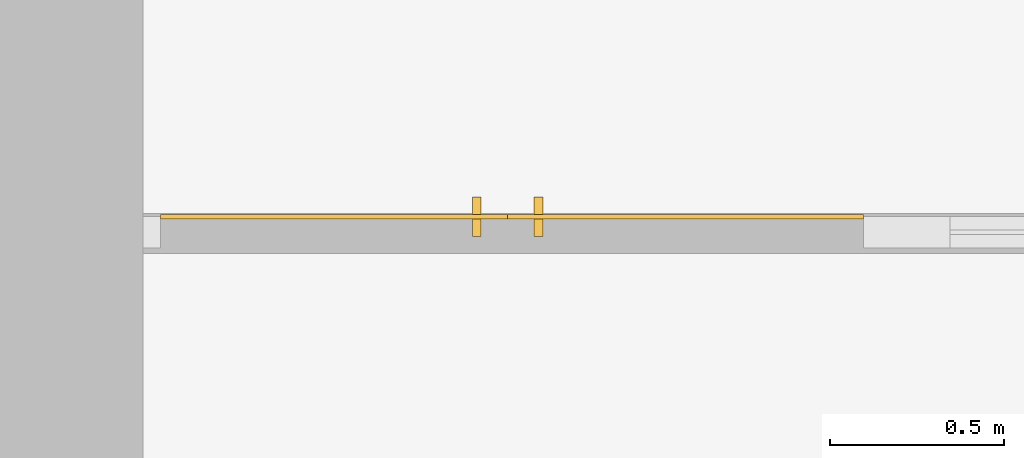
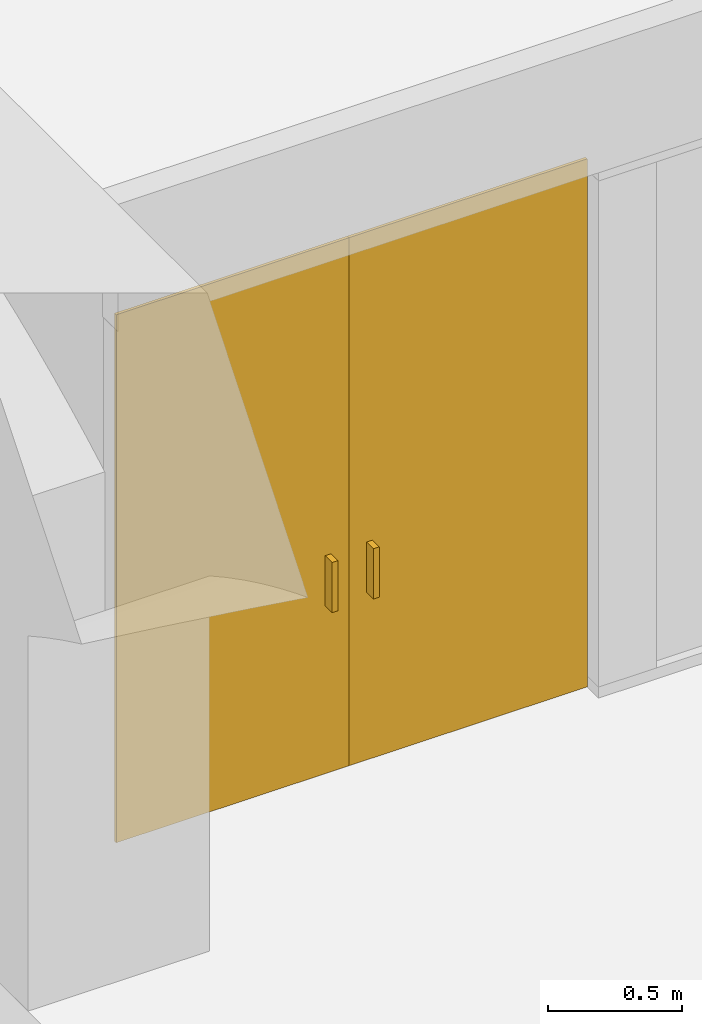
# One storey, part 84 of 88: 2 doors, 1 element without a shape of its own.
"""IFC2X3 building model written with IfcOpenShell, lengths in millimetres."""

from ifc_helpers import new_model, entity, si_unit, converted_unit, derived_unit, direction, frame, frame_2d, origin, place, context, subcontext, project, spatial, rectangle, extrude, source, transform, mapped, material, material_list, type_object, type_shapes, element, aggregate, save


model = new_model("IFC2X3")

# Units and contexts
model_context = context("Model", 3, precision=0.01, world=origin(), true_north=direction((6.123031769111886e-17, 1.0)))
body_context = subcontext(model_context, "Body", "Model", "MODEL_VIEW")
ifc_project = project(units=[si_unit("LENGTHUNIT", "METRE", prefix="MILLI"), si_unit("AREAUNIT", "SQUARE_METRE"), si_unit("VOLUMEUNIT", "CUBIC_METRE"), converted_unit("PLANEANGLEUNIT", "DEGREE", entity("IfcPlaneAngleMeasure", 0.017453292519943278), si_unit("PLANEANGLEUNIT", "RADIAN"), dimensions=[0, 0, 0, 0, 0, 0, 0]), si_unit("MASSUNIT", "GRAM", prefix="KILO"), derived_unit("MASSDENSITYUNIT", [(si_unit("MASSUNIT", "GRAM", prefix="KILO"), 1), (si_unit("LENGTHUNIT", "METRE"), -3)]), derived_unit("IONCONCENTRATIONUNIT", [(si_unit("MASSUNIT", "GRAM", prefix="KILO"), 1), (si_unit("LENGTHUNIT", "METRE"), -3)]), derived_unit("MOMENTOFINERTIAUNIT", [(si_unit("LENGTHUNIT", "METRE"), 4)]), si_unit("TIMEUNIT", "SECOND"), si_unit("FREQUENCYUNIT", "HERTZ"), si_unit("THERMODYNAMICTEMPERATUREUNIT", "DEGREE_CELSIUS"), derived_unit("THERMALTRANSMITTANCEUNIT", [(si_unit("MASSUNIT", "GRAM", prefix="KILO"), 1), (si_unit("THERMODYNAMICTEMPERATUREUNIT", "KELVIN"), -1), (si_unit("TIMEUNIT", "SECOND"), -3)]), derived_unit("THERMALCONDUCTANCEUNIT", [(si_unit("MASSUNIT", "GRAM", prefix="KILO"), 1), (si_unit("THERMODYNAMICTEMPERATUREUNIT", "KELVIN"), -1), (si_unit("TIMEUNIT", "SECOND"), -3), (si_unit("LENGTHUNIT", "METRE"), 1)]), derived_unit("VOLUMETRICFLOWRATEUNIT", [(si_unit("LENGTHUNIT", "METRE", prefix="DECI"), 3), (si_unit("TIMEUNIT", "SECOND"), -1)]), derived_unit("MASSFLOWRATEUNIT", [(si_unit("MASSUNIT", "GRAM", prefix="KILO"), 1), (si_unit("TIMEUNIT", "SECOND"), -1)]), derived_unit("ROTATIONALFREQUENCYUNIT", [(si_unit("TIMEUNIT", "SECOND"), -1)]), si_unit("ELECTRICCURRENTUNIT", "AMPERE"), si_unit("ELECTRICVOLTAGEUNIT", "VOLT"), si_unit("POWERUNIT", "WATT"), si_unit("FORCEUNIT", "NEWTON", prefix="KILO"), si_unit("ILLUMINANCEUNIT", "LUX"), si_unit("LUMINOUSFLUXUNIT", "LUMEN"), si_unit("LUMINOUSINTENSITYUNIT", "CANDELA"), si_unit("ENERGYUNIT", "JOULE"), derived_unit("USERDEFINED", [(si_unit("MASSUNIT", "GRAM", prefix="KILO"), -1), (si_unit("LENGTHUNIT", "METRE"), -2), (si_unit("TIMEUNIT", "SECOND"), 3), (si_unit("LUMINOUSFLUXUNIT", "LUMEN"), 1)]), derived_unit("USERDEFINED", [(si_unit("MASSUNIT", "GRAM", prefix="KILO"), 1), (si_unit("TIMEUNIT", "SECOND"), -3), (si_unit("LENGTHUNIT", "METRE"), 3), (si_unit("ELECTRICCURRENTUNIT", "AMPERE"), -2)]), derived_unit("SOUNDPOWERUNIT", [(si_unit("MASSUNIT", "GRAM", prefix="KILO"), 1), (si_unit("TIMEUNIT", "SECOND"), -3), (si_unit("LENGTHUNIT", "METRE"), 2)]), derived_unit("SOUNDPRESSUREUNIT", [(si_unit("MASSUNIT", "GRAM", prefix="KILO"), 1), (si_unit("LENGTHUNIT", "METRE"), -1), (si_unit("TIMEUNIT", "SECOND"), -2)]), derived_unit("LINEARVELOCITYUNIT", [(si_unit("LENGTHUNIT", "METRE"), 1), (si_unit("TIMEUNIT", "SECOND"), -1)]), si_unit("PRESSUREUNIT", "PASCAL"), derived_unit("USERDEFINED", [(si_unit("MASSUNIT", "GRAM", prefix="KILO"), 1), (si_unit("LENGTHUNIT", "METRE"), -2), (si_unit("TIMEUNIT", "SECOND"), -2)]), derived_unit("LINEARFORCEUNIT", [(si_unit("MASSUNIT", "GRAM", prefix="KILO"), 1), (si_unit("TIMEUNIT", "SECOND"), -2)]), derived_unit("PLANARFORCEUNIT", [(si_unit("MASSUNIT", "GRAM", prefix="KILO"), 1), (si_unit("LENGTHUNIT", "METRE"), -1), (si_unit("TIMEUNIT", "SECOND"), -2)]), derived_unit("SPECIFICHEATCAPACITYUNIT", [(si_unit("THERMODYNAMICTEMPERATUREUNIT", "KELVIN"), -1), (si_unit("LENGTHUNIT", "METRE"), 2), (si_unit("TIMEUNIT", "SECOND"), -2)]), derived_unit("HEATFLUXDENSITYUNIT", [(si_unit("MASSUNIT", "GRAM", prefix="KILO"), 1), (si_unit("TIMEUNIT", "SECOND"), -3)]), derived_unit("HEATINGVALUEUNIT", [(si_unit("LENGTHUNIT", "METRE"), 2), (si_unit("TIMEUNIT", "SECOND"), -2)]), derived_unit("VAPORPERMEABILITYUNIT", [(si_unit("LENGTHUNIT", "METRE"), -1), (si_unit("TIMEUNIT", "SECOND"), 1)]), derived_unit("DYNAMICVISCOSITYUNIT", [(si_unit("MASSUNIT", "GRAM", prefix="KILO"), 1), (si_unit("TIMEUNIT", "SECOND"), -1), (si_unit("LENGTHUNIT", "METRE"), -1)]), derived_unit("THERMALEXPANSIONCOEFFICIENTUNIT", [(si_unit("THERMODYNAMICTEMPERATUREUNIT", "KELVIN"), -1)]), derived_unit("MODULUSOFELASTICITYUNIT", [(si_unit("MASSUNIT", "GRAM", prefix="KILO"), 1), (si_unit("LENGTHUNIT", "METRE"), -1), (si_unit("TIMEUNIT", "SECOND"), -2)]), derived_unit("ISOTHERMALMOISTURECAPACITYUNIT", [(si_unit("MASSUNIT", "GRAM", prefix="KILO"), -1), (si_unit("LENGTHUNIT", "METRE"), 3)]), derived_unit("MOISTUREDIFFUSIVITYUNIT", [(si_unit("TIMEUNIT", "SECOND"), -1), (si_unit("LENGTHUNIT", "METRE"), 2)]), derived_unit("MASSPERLENGTHUNIT", [(si_unit("MASSUNIT", "GRAM", prefix="KILO"), 1), (si_unit("LENGTHUNIT", "METRE"), -1)]), derived_unit("THERMALRESISTANCEUNIT", [(si_unit("MASSUNIT", "GRAM", prefix="KILO"), -1), (si_unit("TIMEUNIT", "SECOND"), 3), (si_unit("THERMODYNAMICTEMPERATUREUNIT", "KELVIN"), 1)]), derived_unit("ACCELERATIONUNIT", [(si_unit("LENGTHUNIT", "METRE"), 1), (si_unit("TIMEUNIT", "SECOND"), -2)]), derived_unit("ANGULARVELOCITYUNIT", [(si_unit("TIMEUNIT", "SECOND"), -1), (si_unit("PLANEANGLEUNIT", "RADIAN"), 1)]), derived_unit("LINEARSTIFFNESSUNIT", [(si_unit("MASSUNIT", "GRAM", prefix="KILO"), 1), (si_unit("TIMEUNIT", "SECOND"), -2)]), derived_unit("WARPINGCONSTANTUNIT", [(si_unit("LENGTHUNIT", "METRE"), 6)]), derived_unit("LINEARMOMENTUNIT", [(si_unit("MASSUNIT", "GRAM", prefix="KILO"), 1), (si_unit("LENGTHUNIT", "METRE"), 1), (si_unit("TIMEUNIT", "SECOND"), -2)]), derived_unit("TORQUEUNIT", [(si_unit("MASSUNIT", "GRAM", prefix="KILO"), 1), (si_unit("LENGTHUNIT", "METRE"), 2), (si_unit("TIMEUNIT", "SECOND"), -2)])], contexts=[model_context])

# Site, building, storey
site_placement = place(None, origin())
site = spatial("IfcSite", under=ifc_project, at=site_placement, Name="Default", CompositionType="ELEMENT")
building_placement = place(site_placement, origin())
building = spatial("IfcBuilding", under=site, at=building_placement, Name="Eesti Rahvusraamatukogu hoone renoveerimise projekteerimistööd", CompositionType="ELEMENT")
storey_placement = place(building_placement, origin())
storey = spatial("IfcBuildingStorey", under=building, at=storey_placement, Name="1. korrus", CompositionType="ELEMENT", Elevation=0.0)

# Curtain wall, doors
curtain_wall_type = type_object("IfcCurtainWallType", Name="Curtain Wall:VLS Klaasvahesein profiilita 38db", PredefinedType="NOTDEFINED")
curtain_wall_placement = place(storey_placement, origin())
curtain_wall = element("IfcCurtainWall", 1, at=curtain_wall_placement, inside=storey, type_object=curtain_wall_type, Name="Curtain Wall:VLS Klaasvahesein profiilita 38db", ObjectType="Curtain Wall:VLS Klaasvahesein profiilita 38db")
ifc_material_1 = material(Name="EST. Klaas. 1x. E-korpus")
ifc_material_2 = material(Name="EST.Alumiinium.RAL9005")
ifc_material_list = material_list([ifc_material_1, ifc_material_2])
door_style_1 = type_object("IfcDoorStyle", Name="1-poolne, klaasseina uks:Metallprofiiluks 01", ConstructionType="NOTDEFINED", OperationType="SINGLE_SWING_LEFT", ParameterTakesPrecedence=False, Sizeable=False, material=ifc_material_list)
shared_shape_1 = source(origin(), body_context, "Body", "SweptSolid", [
    extrude(rectangle(XDim=12.700000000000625, YDim=999.999999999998, at=frame_2d((-3.9968028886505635e-15, 0.0), x_axis=(1.0, 0.0))), frame((0.0, 44.450000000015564, 0.0), z_axis=(0.0, 0.0, 1.0), x_axis=(0.0, -1.0, 0.0)), (0.0, 0.0, 1.0), 2400.0),
    extrude(rectangle(XDim=25.399999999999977, YDim=50.8, at=frame_2d((-3.375077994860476e-14, 0.0), x_axis=(1.0, 0.0))), frame((411.0999999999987, 12.700000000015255, 762.0)), (0.0, 0.0, 1.0), 228.60000000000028),
    extrude(rectangle(XDim=25.399999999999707, YDim=50.80000000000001, at=frame_2d((3.375077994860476e-14, -8.881784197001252e-15), x_axis=(1.0, 0.0))), frame((411.09999999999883, 76.20000000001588, 762.0), z_axis=(0.0, 0.0, 1.0), x_axis=(-1.0, 0.0, 0.0)), (0.0, 0.0, 1.0), 228.60000000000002),
])
type_shapes(door_style_1, [shared_shape_1])
door_1_placement = place(curtain_wall_placement, frame((-48030.0, 30739.376279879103, 0.0)))
door_1 = element("IfcDoor", 2, at=door_1_placement, type_object=door_style_1, material=ifc_material_list, Name="1-poolne, klaasseina uks:Metallprofiiluks 01", ObjectType="1-poolne, klaasseina uks:Metallprofiiluks 01", OverallHeight=2400.0, OverallWidth=1000.0000000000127, context=body_context, shape_type="MappedRepresentation", body=[
    mapped(shared_shape_1, transform((0.0, 0.0, 0.0), scale=1.0)),
])
door_style_2 = type_object("IfcDoorStyle", Name="1-poolne, klaasseina uks:Metallprofiiluks 01", ConstructionType="NOTDEFINED", OperationType="SINGLE_SWING_RIGHT", ParameterTakesPrecedence=False, Sizeable=False, material=ifc_material_list)
shared_shape_2 = source(origin(), body_context, "Body", "SweptSolid", [
    extrude(rectangle(XDim=1025.000000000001, YDim=12.700000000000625, at=frame_2d((0.0, 3.9968028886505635e-15), x_axis=(1.0, 0.0))), frame((0.0, 44.45000000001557, 0.0), z_axis=(0.0, 0.0, 1.0), x_axis=(-1.0, 0.0, 0.0)), (0.0, 0.0, 1.0), 2400.0),
    extrude(rectangle(XDim=50.8, YDim=25.399999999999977, at=frame_2d((0.0, 3.375077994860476e-14), x_axis=(1.0, 0.0))), frame((-423.60000000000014, 12.700000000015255, 762.0), z_axis=(0.0, 0.0, 1.0), x_axis=(0.0, 1.0, 0.0)), (0.0, 0.0, 1.0), 228.60000000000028),
    extrude(rectangle(XDim=50.80000000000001, YDim=25.399999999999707, at=frame_2d((-8.881784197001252e-15, 3.375077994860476e-14), x_axis=(1.0, 0.0))), frame((-423.60000000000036, 76.20000000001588, 762.0), z_axis=(0.0, 0.0, 1.0), x_axis=(0.0, -1.0, 0.0)), (0.0, 0.0, 1.0), 228.60000000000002),
])
type_shapes(door_style_2, [shared_shape_2])
door_2_placement = place(curtain_wall_placement, frame((-47017.49999999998, 30739.3762798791, 0.0)))
door_2 = element("IfcDoor", 3, at=door_2_placement, type_object=door_style_2, material=ifc_material_list, Name="1-poolne, klaasseina uks:Metallprofiiluks 01", ObjectType="1-poolne, klaasseina uks:Metallprofiiluks 01", OverallHeight=2400.0, OverallWidth=1025.0000000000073, context=body_context, shape_type="MappedRepresentation", body=[
    mapped(shared_shape_2, transform((0.0, 0.0, 0.0), scale=1.0)),
])
aggregate(curtain_wall, [door_1, door_2])

save(model, "model.ifc")
